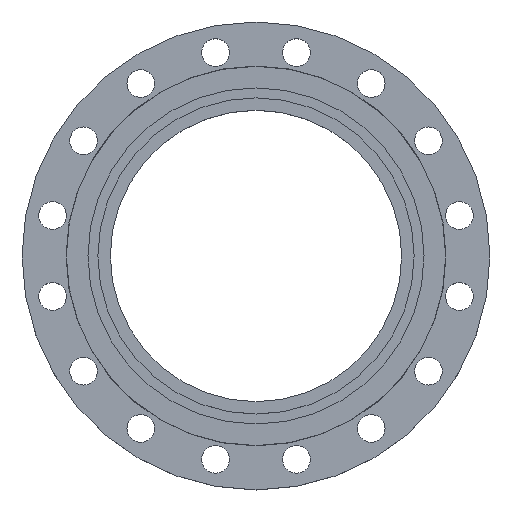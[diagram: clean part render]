
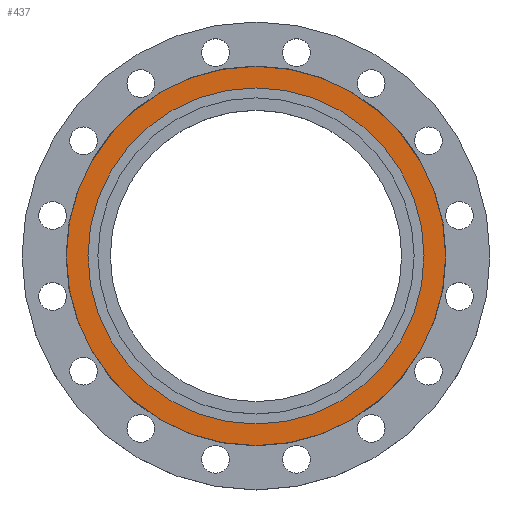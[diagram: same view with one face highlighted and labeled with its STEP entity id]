
A CAD part, top view. The second image highlights one B-rep face of the part: STEP entity #437.
In plain terms, the highlighted planar face has unit normal (0, 0, 1).
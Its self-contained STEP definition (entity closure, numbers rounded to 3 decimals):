
#15 = CARTESIAN_POINT ( 'NONE',  ( -237., 0., 0. ) ) ;
#28 = AXIS2_PLACEMENT_3D ( 'NONE', #419, #1019, #1441 ) ;
#71 = EDGE_LOOP ( 'NONE', ( #831, #833 ) ) ;
#73 = VERTEX_POINT ( 'NONE', #15 ) ;
#154 = EDGE_LOOP ( 'NONE', ( #836, #837 ) ) ;
#156 = DIRECTION ( 'NONE',  ( -1., 0., 0. ) ) ;
#203 = DIRECTION ( 'NONE',  ( 0., 0., -1. ) ) ;
#321 = AXIS2_PLACEMENT_3D ( 'NONE', #1509, #408, #1013 ) ;
#356 = AXIS2_PLACEMENT_3D ( 'NONE', #1490, #371, #993 ) ;
#371 = DIRECTION ( 'NONE',  ( 0., 0., -1. ) ) ;
#399 = EDGE_CURVE ( 'NONE', #73, #1205, #976, .T. ) ;
#408 = DIRECTION ( 'NONE',  ( 0., 0., 1. ) ) ;
#416 = CIRCLE ( 'NONE', #356, 267.5 ) ;
#419 = CARTESIAN_POINT ( 'NONE',  ( 0., 0., 0. ) ) ;
#437 = ADVANCED_FACE ( 'NONE', ( #1581, #531 ), #1112, .T. ) ;
#462 = EDGE_CURVE ( 'NONE', #1205, #73, #1003, .T. ) ;
#463 = CIRCLE ( 'NONE', #604, 267.5 ) ;
#531 = FACE_BOUND ( 'NONE', #154, .T. ) ;
#604 = AXIS2_PLACEMENT_3D ( 'NONE', #1423, #203, #801 ) ;
#777 = VERTEX_POINT ( 'NONE', #1240 ) ;
#801 = DIRECTION ( 'NONE',  ( -1., 0., 0. ) ) ;
#831 = ORIENTED_EDGE ( 'NONE', *, *, #1301, .F. ) ;
#833 = ORIENTED_EDGE ( 'NONE', *, *, #1304, .F. ) ;
#836 = ORIENTED_EDGE ( 'NONE', *, *, #399, .T. ) ;
#837 = ORIENTED_EDGE ( 'NONE', *, *, #462, .T. ) ;
#943 = VERTEX_POINT ( 'NONE', #1521 ) ;
#961 = AXIS2_PLACEMENT_3D ( 'NONE', #968, #1406, #156 ) ;
#968 = CARTESIAN_POINT ( 'NONE',  ( 0., 0., 0. ) ) ;
#976 = CIRCLE ( 'NONE', #961, 237. ) ;
#993 = DIRECTION ( 'NONE',  ( -1., 0., 0. ) ) ;
#1003 = CIRCLE ( 'NONE', #28, 237. ) ;
#1013 = DIRECTION ( 'NONE',  ( 1., 0., 0. ) ) ;
#1019 = DIRECTION ( 'NONE',  ( 0., 0., -1. ) ) ;
#1112 = PLANE ( 'NONE',  #321 ) ;
#1205 = VERTEX_POINT ( 'NONE', #1477 ) ;
#1240 = CARTESIAN_POINT ( 'NONE',  ( 267.5, 0., 0. ) ) ;
#1301 = EDGE_CURVE ( 'NONE', #943, #777, #416, .T. ) ;
#1304 = EDGE_CURVE ( 'NONE', #777, #943, #463, .T. ) ;
#1406 = DIRECTION ( 'NONE',  ( 0., 0., -1. ) ) ;
#1423 = CARTESIAN_POINT ( 'NONE',  ( 0., 0., 0. ) ) ;
#1441 = DIRECTION ( 'NONE',  ( -1., 0., 0. ) ) ;
#1477 = CARTESIAN_POINT ( 'NONE',  ( 237., 0., 0. ) ) ;
#1490 = CARTESIAN_POINT ( 'NONE',  ( 0., 0., 0. ) ) ;
#1509 = CARTESIAN_POINT ( 'NONE',  ( 0., 0., 0. ) ) ;
#1521 = CARTESIAN_POINT ( 'NONE',  ( -267.5, 0., 0. ) ) ;
#1581 = FACE_OUTER_BOUND ( 'NONE', #71, .T. ) ;
